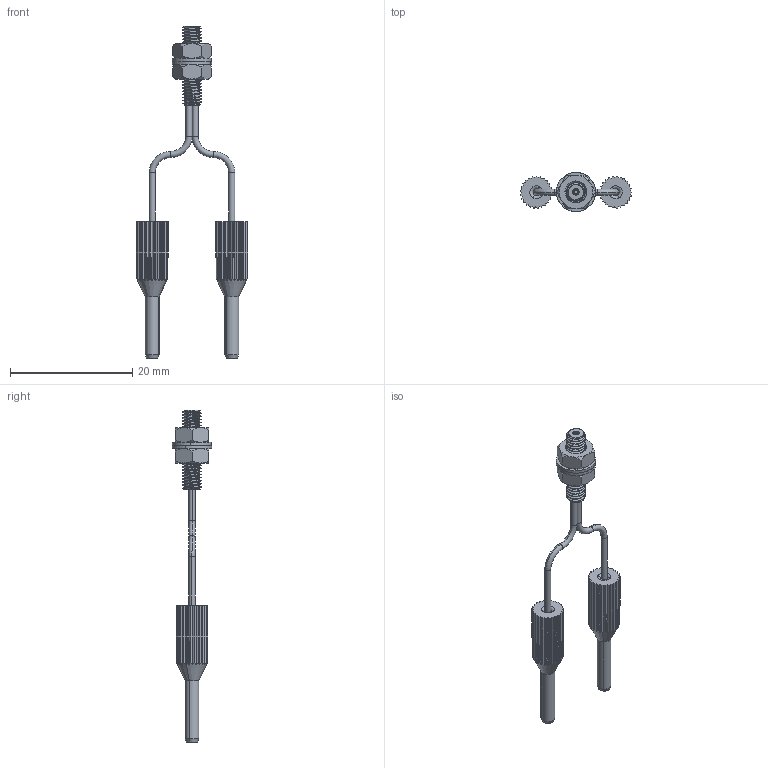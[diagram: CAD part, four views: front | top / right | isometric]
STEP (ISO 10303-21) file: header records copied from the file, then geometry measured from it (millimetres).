
FILE_DESCRIPTION (( 'STEP AP214' ), '1' );
FILE_NAME ('DM-33G.STEP', '2025-09-26T03:21:29', ( 'Windows User' ), ( 'P R C' ), 'SwSTEP 2.0', 'SolidWorks 2023', '' );
FILE_SCHEMA (( 'AUTOMOTIVE_DESIGN' ));
Length unit declared in the file: millimetre
Products named in the file (8): SD1200031-6.4×0.5 垫片; SD2008371-支座（1.0光纤） ; SDxxxxx-DM-33G壳体; 1.0光纤线; SD2008370-密封压盖（1.0光纤） ; SD1300028-螺帽M3×0.5-SW5.5×2.4; 8×0.265+0.5光纤线; DM-33G
Assembly tree (12 placements, depth 2):
  DM-33G
    SDxxxxx-DM-33G壳体
    8×0.265+0.5光纤线
    1.0光纤线  x2
    SD1200031-6.4×0.5 垫片  x2
    SD1300028-螺帽M3×0.5-SW5.5×2.4  x2
    SD2008370-密封压盖（1.0光纤）   x2
    SD2008371-支座（1.0光纤）   x2
Bounding box: 18.19 x 6.4 x 54.25 mm (x, y, z)
Volume: 637.3 mm3; surface area: 1836.3 mm2
Topology: 20 solids, 20 shells, 858 faces, 2346 edges, 1529 vertices
Faces by surface type: cylinder 353, plane 279, cone 111, bspline 99, torus 16
Entity records: 30272 total; most frequent: CARTESIAN_POINT 18609, ORIENTED_EDGE 2600, DIRECTION 2067, EDGE_CURVE 1300, VERTEX_POINT 848, AXIS2_PLACEMENT_3D 769, VECTOR 529, LINE 529
